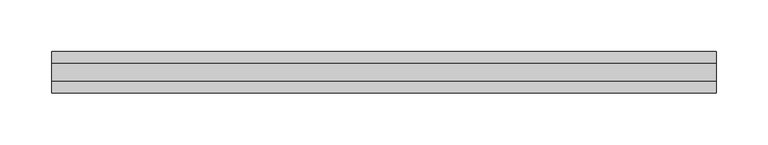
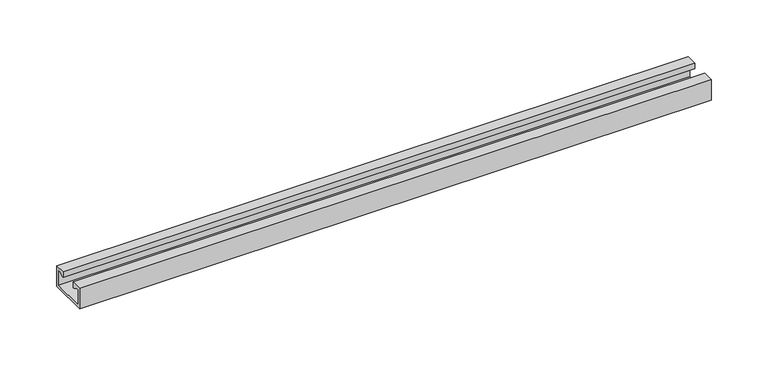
"""IFC4 building model written with IfcOpenShell, lengths in millimetres: fastener geometry, JM W JORDAHL® Mounting Channels : JM W40/22 - L."""

from ifc_helpers import new_model, si_unit, frame, origin, place, context, project, spatial, polyline, outline, extrude, source, transform, mapped, element, save


def fastener_806f576e(model_context):
    return source(origin(), model_context, "Body", "SweptSolid", [
        extrude(outline(polyline([(-9.0, 22.0), (-9.0, 16.0), (-10.0, 16.0), (-15.1961524, 19.0), (-17.5, 19.0), (-17.5, 2.5), (17.5, 2.5), (17.5, 19.0), (15.1961524, 19.0), (10.0, 16.0), (9.0, 16.0), (9.0, 22.0), (20.0, 22.0), (20.0, 0.0), (-20.0, 0.0), (-20.0, 22.0), (-9.0, 22.0)])), frame((0.0, 0.0, 0.0), z_axis=(1.0, 0.0, 0.0), x_axis=(0.0, 1.0, 0.0)), (0.0, 0.0, 1.0), 640.0),
    ])


if __name__ == "__main__":
    model = new_model("IFC4")
    model_context = context("Model", 3, world=origin())
    ifc_project = project(units=[si_unit("LENGTHUNIT", "METRE", prefix="MILLI")], contexts=[model_context])
    site = spatial("IfcSite", under=ifc_project)
    building = spatial("IfcBuilding", under=site)
    placement = place(None, origin())
    fastener_shape = fastener_806f576e(model_context)
    element("IfcFastener", 1, ObjectType="JM W JORDAHL® Mounting Channels : JM W40/22 - L", at=placement, inside=building, context=model_context, shape_type="MappedRepresentation", body=[
        mapped(fastener_shape, transform((0.0, 0.0, 0.0), x_axis=(1.0, 0.0, 0.0), y_axis=(0.0, 1.0, 0.0), z_axis=(0.0, 0.0, 1.0))),
    ])
    save(model, "model.ifc")
